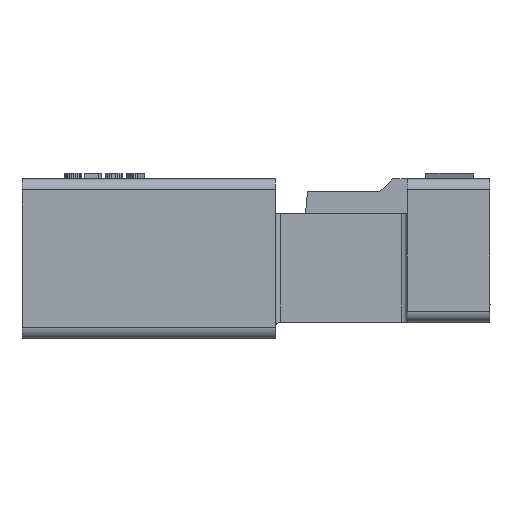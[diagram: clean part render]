
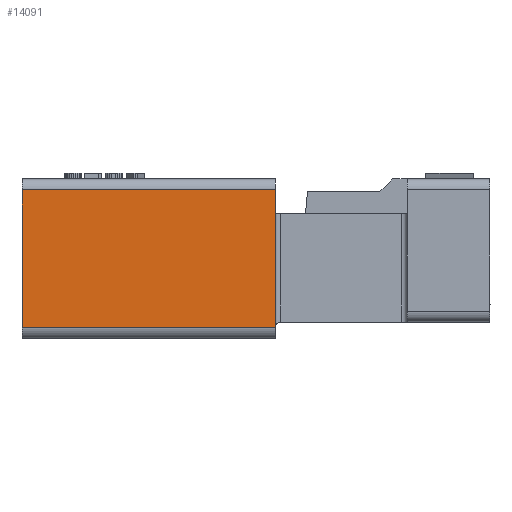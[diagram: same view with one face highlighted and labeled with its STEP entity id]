
A CAD part, left-side view. The second image highlights one B-rep face of the part: STEP entity #14091.
In plain terms, the highlighted planar face has unit normal (-1, 0, 0).
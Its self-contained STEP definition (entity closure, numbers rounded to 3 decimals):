
#10=DIRECTION('',(0.,0.,-1.));
#11=VECTOR('',#10,2.5);
#12=CARTESIAN_POINT('',(-6.9,8.5,-0.2));
#13=LINE('',#12,#11);
#2301=DIRECTION('',(0.,-1.,0.));
#2302=VECTOR('',#2301,4.6);
#2303=CARTESIAN_POINT('',(-6.9,8.5,-2.7));
#2304=LINE('',#2303,#2302);
#2335=DIRECTION('',(0.,0.,1.));
#2336=VECTOR('',#2335,2.5);
#2337=CARTESIAN_POINT('',(-6.9,3.9,-2.7));
#2338=LINE('',#2337,#2336);
#2343=DIRECTION('',(0.,1.,0.));
#2344=VECTOR('',#2343,4.6);
#2345=CARTESIAN_POINT('',(-6.9,3.9,-0.2));
#2346=LINE('',#2345,#2344);
#9099=CARTESIAN_POINT('',(-6.9,8.5,-0.2));
#9100=VERTEX_POINT('',#9099);
#9101=CARTESIAN_POINT('',(-6.9,8.5,-2.7));
#9102=VERTEX_POINT('',#9101);
#10079=CARTESIAN_POINT('',(-6.9,3.9,-2.7));
#10080=VERTEX_POINT('',#10079);
#10081=CARTESIAN_POINT('',(-6.9,3.9,-0.2));
#10082=VERTEX_POINT('',#10081);
#14080=CARTESIAN_POINT('',(-6.9,6.2,-1.45));
#14081=DIRECTION('',(1.,0.,0.));
#14082=DIRECTION('',(0.,0.,-1.));
#14083=AXIS2_PLACEMENT_3D('',#14080,#14081,#14082);
#14084=PLANE('',#14083);
#14085=ORIENTED_EDGE('',*,*,#14075,.F.);
#14086=ORIENTED_EDGE('',*,*,#14062,.F.);
#14087=ORIENTED_EDGE('',*,*,#14035,.F.);
#14088=ORIENTED_EDGE('',*,*,#12042,.F.);
#14089=EDGE_LOOP('',(#14085,#14086,#14087,#14088));
#14090=FACE_OUTER_BOUND('',#14089,.F.);
#12042=EDGE_CURVE('',#9100,#9102,#13,.T.);
#14035=EDGE_CURVE('',#9102,#10080,#2304,.T.);
#14062=EDGE_CURVE('',#10080,#10082,#2338,.T.);
#14075=EDGE_CURVE('',#10082,#9100,#2346,.T.);
#14091=ADVANCED_FACE('',(#14090),#14084,.F.);
